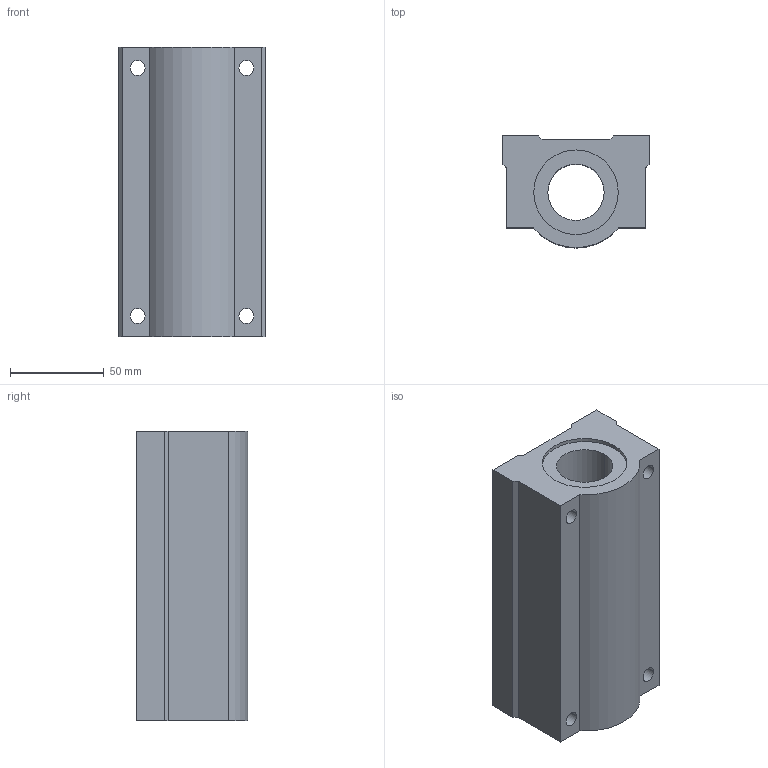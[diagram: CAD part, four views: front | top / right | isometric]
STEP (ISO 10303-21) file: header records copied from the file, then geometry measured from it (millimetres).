
FILE_DESCRIPTION((''),'2;1');
FILE_NAME('C:\Documents and Settings\ｿﾀﾀ蠑ｷ1\ｹﾙﾅﾁ ﾈｭｸ饅\ｺﾎﾇｰﾆﾄﾀﾏ\ﾁｦﾇｰ\SCE__WUU\SCE30WUU.stp','2005-06-22T15:46:11',('ｿﾀﾀ蠑ｷ1'),(''),'Autodesk Inventor 9','Autodesk Inventor 9','');
FILE_SCHEMA(('AUTOMOTIVE_DESIGN { 1 0 10303 214 1 1 1 1 }'));
Length unit declared in the file: millimetre
Products named in the file (1): SCE__UU
Bounding box: 78 x 59.5 x 154 mm (x, y, z)
Volume: 485013.8 mm3; surface area: 65672.2 mm2
Topology: 1 solids, 1 shells, 32 faces, 84 edges, 56 vertices
Faces by surface type: plane 17, bspline 8, cylinder 7
Entity records: 1145 total; most frequent: CARTESIAN_POINT 309, ORIENTED_EDGE 168, DIRECTION 164, EDGE_CURVE 84, VERTEX_POINT 56, AXIS2_PLACEMENT_3D 55, VECTOR 54, LINE 54
